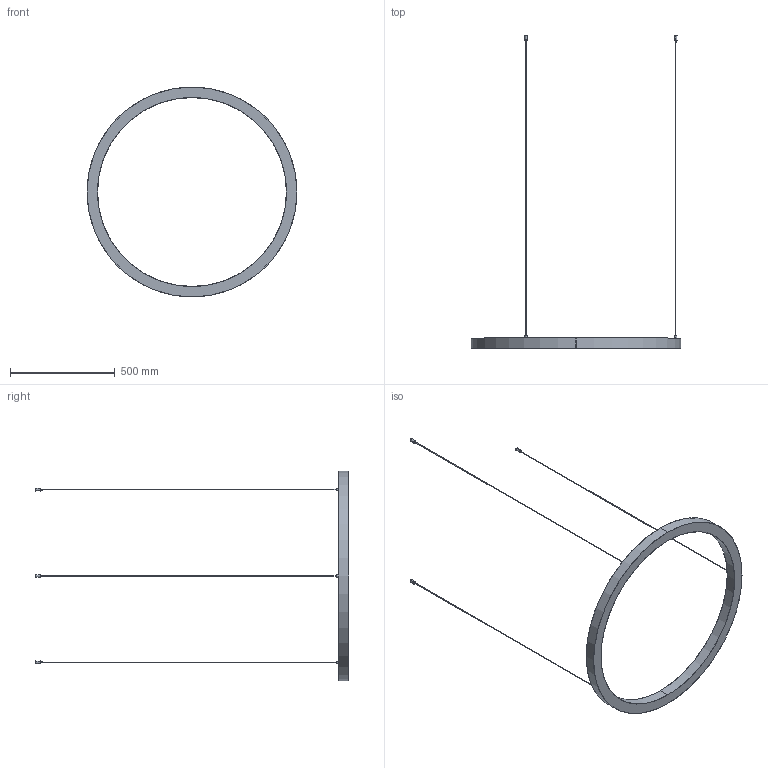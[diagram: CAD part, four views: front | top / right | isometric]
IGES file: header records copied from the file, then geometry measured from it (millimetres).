
Start section: SolidWorks IGES file using analytic representation for surfaces
Global section: file name: F:\燠隴矨\3D\2024-8堎\Ring LED Pendant Light-D100CM.IGS; native system: SolidWorks 2022; preprocessor: SolidWorks 2022; author: MyPC; date: 240813.091505; units: millimetre
Bounding box: 1000 x 1492.5 x 1000 mm (x, y, z)
Surface area: 642699.1 mm2 (no closed solid volume)
Topology: 0 solids, 0 shells, 72 faces, 1400 edges, 1400 vertices
Faces by surface type: revolution 46, bspline 26
